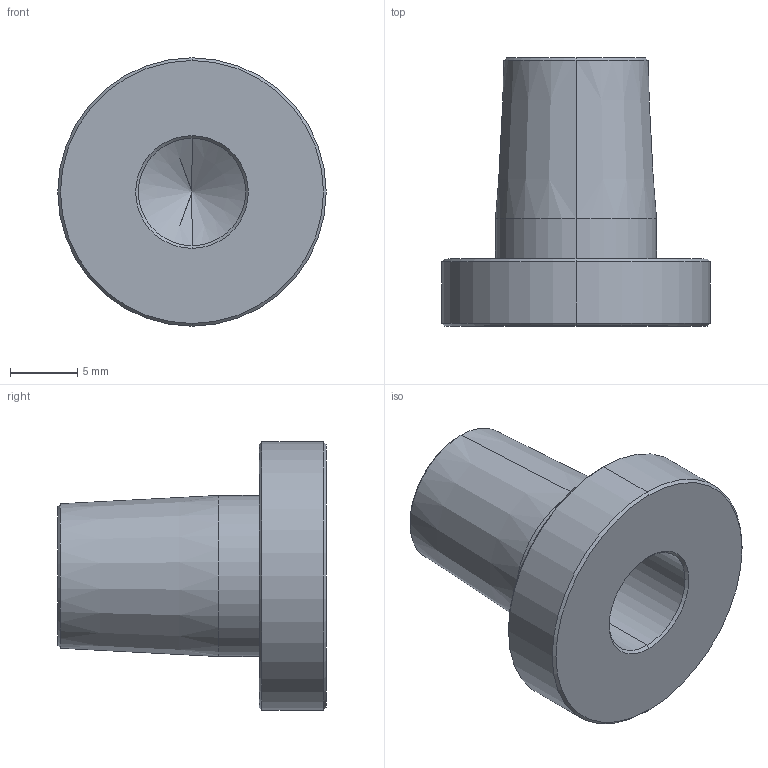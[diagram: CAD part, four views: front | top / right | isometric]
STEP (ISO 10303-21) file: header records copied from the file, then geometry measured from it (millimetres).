
FILE_DESCRIPTION (( 'STEP AP203' ), '1' );
FILE_NAME ('上部電極_SW-PN-UG8.STEP', '2022-04-04T04:59:27', ( '' ), ( '' ), 'SwSTEP 2.0', 'SolidWorks 2015', '' );
FILE_SCHEMA (( 'CONFIG_CONTROL_DESIGN' ));
Length unit declared in the file: millimetre
Products named in the file (2): 上部電極_SW-PN-UG8
Bounding box: 20 x 20 x 20 mm (x, y, z)
Volume: 2291.3 mm3; surface area: 1831.7 mm2
Topology: 1 solids, 1 shells, 27 faces, 56 edges, 30 vertices
Faces by surface type: cone 16, cylinder 8, plane 3
Entity records: 837 total; most frequent: DIRECTION 138, CARTESIAN_POINT 111, ORIENTED_EDGE 104, AXIS2_PLACEMENT_3D 57, EDGE_CURVE 52, EDGE_LOOP 30, VERTEX_POINT 30, CIRCLE 28
